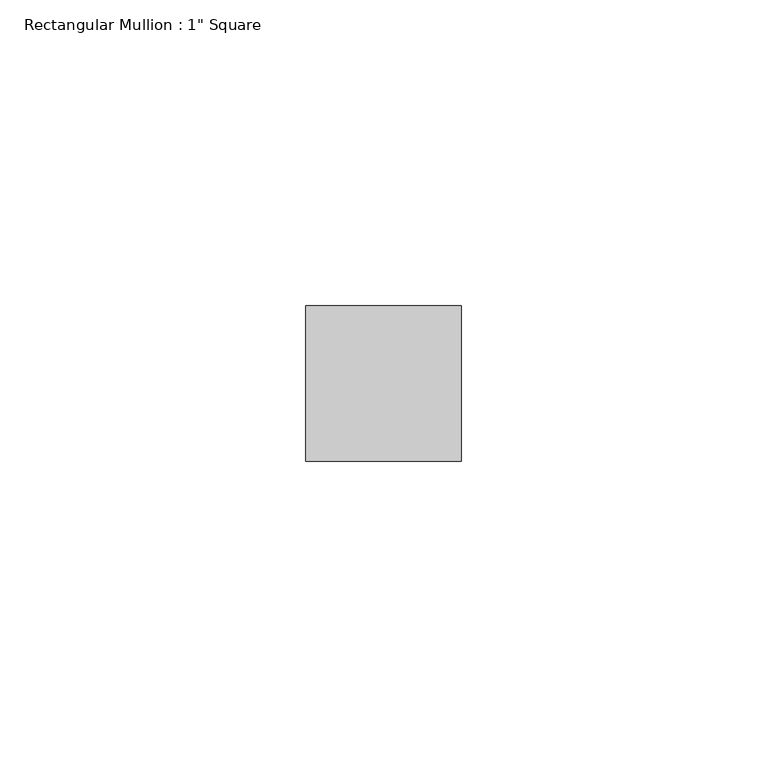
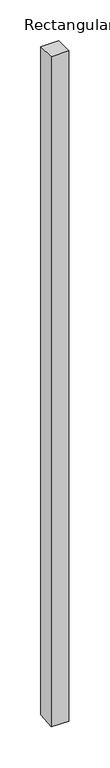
"""IFC4 building model written with IfcOpenShell, lengths in millimetres: member geometry."""

from ifc_helpers import new_model, si_unit, origin, place, context, project, spatial, faceted_brep, source, transform, mapped, element, save


def member_2d455e9d(model_context):
    return source(origin(), model_context, "Body", "Brep", [
        faceted_brep([(0.0, 12.7, 0.0), (-25.4, 12.7, 0.0), (-25.4, -12.7, 0.0), (0.0, -12.7, 0.0), (0.0, 12.7, -1003.3620302), (-25.4, 12.7, -1002.472071), (-25.4, -12.7, -1005.1280921), (0.0, -12.7, -1006.0180513)], [[[0, 1, 2, 3]], [[1, 0, 4, 5]], [[2, 1, 5, 6]], [[3, 2, 6, 7]], [[0, 3, 7, 4]], [[4, 7, 6, 5]]]),
    ])


if __name__ == "__main__":
    model = new_model("IFC4")
    model_context = context("Model", 3, world=origin())
    ifc_project = project(units=[si_unit("LENGTHUNIT", "METRE", prefix="MILLI")], contexts=[model_context])
    site = spatial("IfcSite", under=ifc_project)
    building = spatial("IfcBuilding", under=site)
    placement = place(None, origin())
    member_shape = member_2d455e9d(model_context)
    element("IfcMember", 1, ObjectType="Rectangular Mullion : 1\" Square", at=placement, inside=building, context=model_context, shape_type="MappedRepresentation", body=[
        mapped(member_shape, transform((0.0, 0.0, 0.0), x_axis=(1.0, 0.0, 0.0), y_axis=(0.0, 1.0, 0.0), z_axis=(0.0, 0.0, 1.0))),
    ])
    save(model, "model.ifc")
